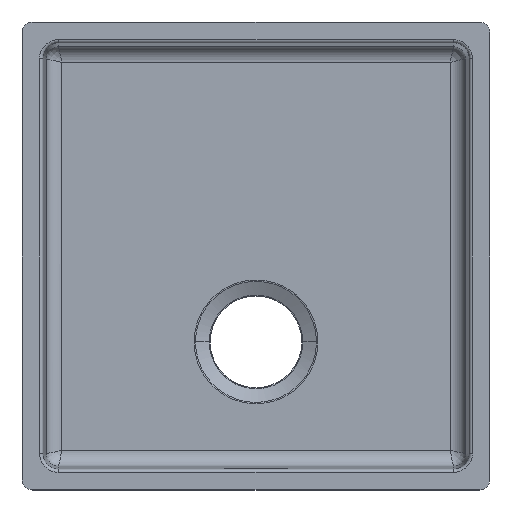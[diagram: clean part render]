
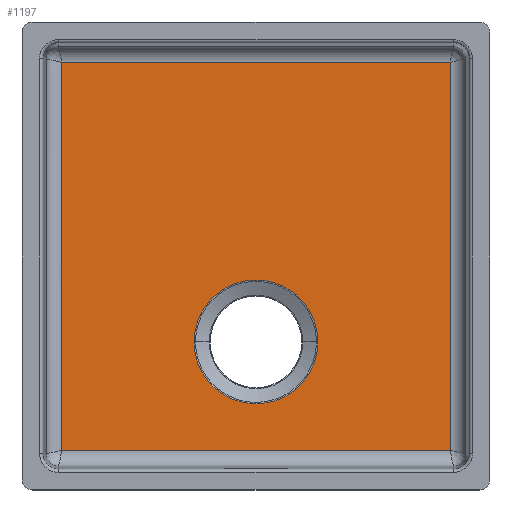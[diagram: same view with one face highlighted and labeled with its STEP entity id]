
A CAD part, top view. The second image highlights one B-rep face of the part: STEP entity #1197.
In plain terms, the highlighted planar face has unit normal (0, 0, 1).
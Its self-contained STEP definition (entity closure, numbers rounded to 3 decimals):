
#583=CARTESIAN_POINT('Vertex',(182.408,-182.408,-191.)) ;
#586=CARTESIAN_POINT('Line Origine',(0.,-182.408,-191.)) ;
#590=CARTESIAN_POINT('Vertex',(-182.408,-182.408,-191.)) ;
#1086=CARTESIAN_POINT('Axis2P3D Location',(200.5,185.5,-191.)) ;
#1091=CARTESIAN_POINT('Line Origine',(200.5,182.408,-191.)) ;
#1095=CARTESIAN_POINT('Vertex',(-182.408,182.408,-191.)) ;
#1097=CARTESIAN_POINT('Vertex',(182.408,182.408,-191.)) ;
#1100=CARTESIAN_POINT('Line Origine',(-182.408,185.5,-191.)) ;
#1105=CARTESIAN_POINT('Line Origine',(182.408,185.5,-191.)) ;
#1117=CARTESIAN_POINT('Control Point',(58.165,-80.406,-191.)) ;
#1118=CARTESIAN_POINT('Control Point',(58.165,-80.986,-191.)) ;
#1119=CARTESIAN_POINT('Control Point',(58.158,-81.564,-191.)) ;
#1120=CARTESIAN_POINT('Control Point',(58.143,-82.145,-191.)) ;
#1121=CARTESIAN_POINT('Control Point',(58.04,-84.901,-191.)) ;
#1122=CARTESIAN_POINT('Control Point',(57.774,-87.65,-191.)) ;
#1123=CARTESIAN_POINT('Control Point',(57.462,-89.809,-191.)) ;
#1124=CARTESIAN_POINT('Control Point',(56.527,-94.662,-191.)) ;
#1125=CARTESIAN_POINT('Control Point',(55.083,-99.392,-191.)) ;
#1126=CARTESIAN_POINT('Control Point',(54.12,-101.983,-191.)) ;
#1127=CARTESIAN_POINT('Control Point',(51.013,-109.037,-191.)) ;
#1128=CARTESIAN_POINT('Control Point',(46.773,-115.509,-191.)) ;
#1129=CARTESIAN_POINT('Control Point',(43.621,-119.357,-191.)) ;
#1130=CARTESIAN_POINT('Control Point',(33.01,-129.811,-191.)) ;
#1131=CARTESIAN_POINT('Control Point',(19.461,-136.576,-191.)) ;
#1132=CARTESIAN_POINT('Control Point',(9.591,-139.072,-191.)) ;
#1133=CARTESIAN_POINT('Control Point',(-10.577,-139.73,-191.)) ;
#1134=CARTESIAN_POINT('Control Point',(-29.28,-132.139,-191.)) ;
#1135=CARTESIAN_POINT('Control Point',(-37.683,-126.382,-191.)) ;
#1136=CARTESIAN_POINT('Control Point',(-46.82,-116.665,-191.)) ;
#1137=CARTESIAN_POINT('Control Point',(-52.829,-105.051,-191.)) ;
#1138=CARTESIAN_POINT('Control Point',(-54.096,-102.131,-191.)) ;
#1139=CARTESIAN_POINT('Control Point',(-55.691,-97.634,-191.)) ;
#1140=CARTESIAN_POINT('Control Point',(-56.817,-93.007,-191.)) ;
#1141=CARTESIAN_POINT('Control Point',(-57.14,-91.452,-191.)) ;
#1142=CARTESIAN_POINT('Control Point',(-57.544,-89.105,-191.)) ;
#1143=CARTESIAN_POINT('Control Point',(-57.827,-86.741,-191.)) ;
#1144=CARTESIAN_POINT('Control Point',(-57.908,-85.952,-191.)) ;
#1145=CARTESIAN_POINT('Control Point',(-58.043,-84.371,-191.)) ;
#1146=CARTESIAN_POINT('Control Point',(-58.124,-82.786,-191.)) ;
#1147=CARTESIAN_POINT('Control Point',(-58.152,-81.994,-191.)) ;
#1148=CARTESIAN_POINT('Control Point',(-58.165,-81.199,-191.)) ;
#1149=CARTESIAN_POINT('Control Point',(-58.165,-80.406,-191.)) ;
#1150=CARTESIAN_POINT('Vertex',(-58.165,-80.406,-191.)) ;
#1152=CARTESIAN_POINT('Vertex',(58.165,-80.406,-191.)) ;
#1156=CARTESIAN_POINT('Control Point',(58.165,-80.406,-191.)) ;
#1157=CARTESIAN_POINT('Control Point',(58.165,-79.718,-191.)) ;
#1158=CARTESIAN_POINT('Control Point',(58.155,-79.032,-191.)) ;
#1159=CARTESIAN_POINT('Control Point',(58.135,-78.343,-191.)) ;
#1160=CARTESIAN_POINT('Control Point',(58.074,-76.969,-191.)) ;
#1161=CARTESIAN_POINT('Control Point',(57.972,-75.598,-191.)) ;
#1162=CARTESIAN_POINT('Control Point',(57.911,-74.913,-191.)) ;
#1163=CARTESIAN_POINT('Control Point',(57.698,-72.861,-191.)) ;
#1164=CARTESIAN_POINT('Control Point',(57.394,-70.82,-191.)) ;
#1165=CARTESIAN_POINT('Control Point',(57.152,-69.466,-191.)) ;
#1166=CARTESIAN_POINT('Control Point',(56.304,-65.427,-191.)) ;
#1167=CARTESIAN_POINT('Control Point',(55.101,-61.474,-191.)) ;
#1168=CARTESIAN_POINT('Control Point',(54.144,-58.889,-191.)) ;
#1169=CARTESIAN_POINT('Control Point',(51.048,-51.839,-191.)) ;
#1170=CARTESIAN_POINT('Control Point',(46.821,-45.367,-191.)) ;
#1171=CARTESIAN_POINT('Control Point',(43.675,-41.515,-191.)) ;
#1172=CARTESIAN_POINT('Control Point',(33.078,-31.046,-191.)) ;
#1173=CARTESIAN_POINT('Control Point',(19.539,-24.263,-191.)) ;
#1174=CARTESIAN_POINT('Control Point',(9.673,-21.753,-191.)) ;
#1175=CARTESIAN_POINT('Control Point',(-10.494,-21.068,-191.)) ;
#1176=CARTESIAN_POINT('Control Point',(-29.208,-28.631,-191.)) ;
#1177=CARTESIAN_POINT('Control Point',(-37.619,-34.377,-191.)) ;
#1178=CARTESIAN_POINT('Control Point',(-46.775,-44.087,-191.)) ;
#1179=CARTESIAN_POINT('Control Point',(-52.802,-55.702,-191.)) ;
#1180=CARTESIAN_POINT('Control Point',(-54.075,-58.628,-191.)) ;
#1181=CARTESIAN_POINT('Control Point',(-55.678,-63.135,-191.)) ;
#1182=CARTESIAN_POINT('Control Point',(-56.81,-67.773,-191.)) ;
#1183=CARTESIAN_POINT('Control Point',(-57.134,-69.332,-191.)) ;
#1184=CARTESIAN_POINT('Control Point',(-57.54,-71.685,-191.)) ;
#1185=CARTESIAN_POINT('Control Point',(-57.825,-74.054,-191.)) ;
#1186=CARTESIAN_POINT('Control Point',(-57.907,-74.845,-191.)) ;
#1187=CARTESIAN_POINT('Control Point',(-58.043,-76.431,-191.)) ;
#1188=CARTESIAN_POINT('Control Point',(-58.124,-78.02,-191.)) ;
#1189=CARTESIAN_POINT('Control Point',(-58.152,-78.813,-191.)) ;
#1190=CARTESIAN_POINT('Control Point',(-58.165,-79.61,-191.)) ;
#1191=CARTESIAN_POINT('Control Point',(-58.165,-80.406,-191.)) ;
#587=DIRECTION('Vector Direction',(1.,0.,0.)) ;
#1087=DIRECTION('Axis2P3D Direction',(0.,0.,-1.)) ;
#1088=DIRECTION('Axis2P3D XDirection',(1.,0.,0.)) ;
#1092=DIRECTION('Vector Direction',(1.,0.,0.)) ;
#1101=DIRECTION('Vector Direction',(0.,-1.,0.)) ;
#1106=DIRECTION('Vector Direction',(0.,-1.,0.)) ;
#1089=AXIS2_PLACEMENT_3D('Plane Axis2P3D',#1086,#1087,#1088) ;
#1111=ORIENTED_EDGE('',*,*,#1099,.F.) ;
#1112=ORIENTED_EDGE('',*,*,#1104,.F.) ;
#1113=ORIENTED_EDGE('',*,*,#592,.F.) ;
#1114=ORIENTED_EDGE('',*,*,#1109,.F.) ;
#1194=ORIENTED_EDGE('',*,*,#1154,.F.) ;
#1195=ORIENTED_EDGE('',*,*,#1192,.F.) ;
#1196=FACE_BOUND('',#1193,.T.) ;
#588=VECTOR('Line Direction',#587,1.) ;
#1093=VECTOR('Line Direction',#1092,1.) ;
#1102=VECTOR('Line Direction',#1101,1.) ;
#1107=VECTOR('Line Direction',#1106,1.) ;
#1197=ADVANCED_FACE('Vasca',(#1115,#1196),#1090,.F.) ;
#1116=B_SPLINE_CURVE_WITH_KNOTS('',5,(#1117,#1118,#1119,#1120,#1121,#1122,#1123,#1124,#1125,#1126,#1127,#1128,#1129,#1130,#1131,#1132,#1133,#1134,#1135,#1136,#1137,#1138,#1139,#1140,#1141,#1142,#1143,#1144,#1145,#1146,#1147,#1148,#1149),.UNSPECIFIED.,.F.,.U.,(6,3,3,3,3,3,3,3,3,3,6),(58.713,62.567,77.057,95.4,128.231,193.912,259.579,280.684,291.237,296.513,301.789),.UNSPECIFIED.) ;
#1155=B_SPLINE_CURVE_WITH_KNOTS('',5,(#1156,#1157,#1158,#1159,#1160,#1161,#1162,#1163,#1164,#1165,#1166,#1167,#1168,#1169,#1170,#1171,#1172,#1173,#1174,#1175,#1176,#1177,#1178,#1179,#1180,#1181,#1182,#1183,#1184,#1185,#1186,#1187,#1188,#1189,#1190,#1191),.UNSPECIFIED.,.F.,.U.,(6,3,3,3,3,3,3,3,3,3,3,6),(79.362,83.935,88.507,97.652,115.942,148.775,214.451,280.12,301.279,311.859,317.148,322.438),.UNSPECIFIED.) ;
#592=EDGE_CURVE('',#584,#591,#589,.F.) ;
#1099=EDGE_CURVE('',#1096,#1098,#1094,.T.) ;
#1104=EDGE_CURVE('',#591,#1096,#1103,.F.) ;
#1109=EDGE_CURVE('',#1098,#584,#1108,.T.) ;
#1154=EDGE_CURVE('',#1151,#1153,#1116,.F.) ;
#1192=EDGE_CURVE('',#1153,#1151,#1155,.T.) ;
#1110=EDGE_LOOP('',(#1111,#1112,#1113,#1114)) ;
#1193=EDGE_LOOP('',(#1194,#1195)) ;
#1115=FACE_OUTER_BOUND('',#1110,.T.) ;
#589=LINE('Line',#586,#588) ;
#1094=LINE('Line',#1091,#1093) ;
#1103=LINE('Line',#1100,#1102) ;
#1108=LINE('Line',#1105,#1107) ;
#1090=PLANE('',#1089) ;
#584=VERTEX_POINT('',#583) ;
#591=VERTEX_POINT('',#590) ;
#1096=VERTEX_POINT('',#1095) ;
#1098=VERTEX_POINT('',#1097) ;
#1151=VERTEX_POINT('',#1150) ;
#1153=VERTEX_POINT('',#1152) ;
